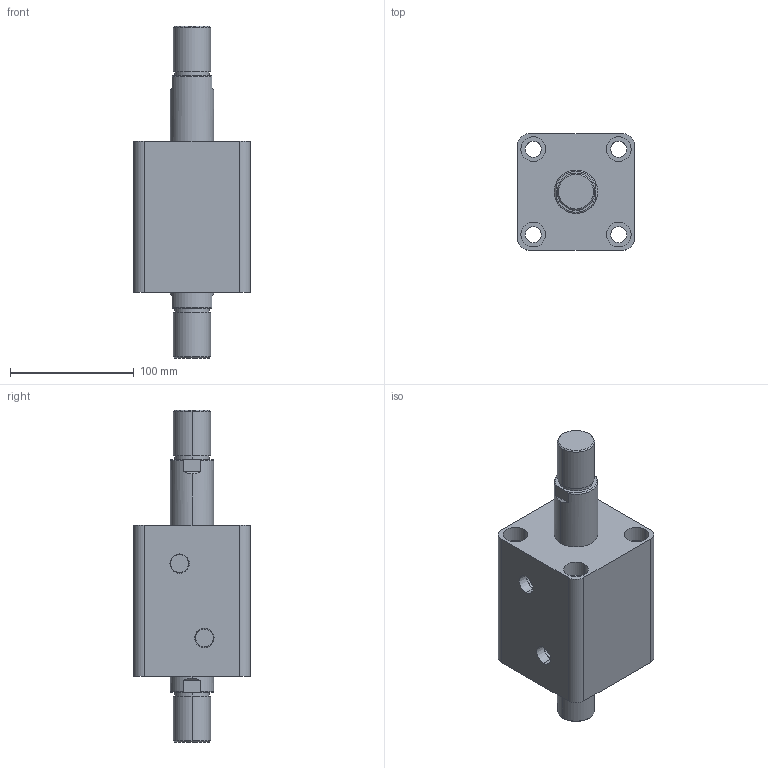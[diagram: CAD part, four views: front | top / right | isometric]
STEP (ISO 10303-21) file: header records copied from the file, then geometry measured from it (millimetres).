
FILE_DESCRIPTION (( 'STEP AP203' ), '1' );
FILE_NAME ('HTB-SW63-40W.STEP', '2019-10-07T10:04:47', ( '微软用户' ), ( '微软中国' ), 'SwSTEP 2.0', 'SolidWorks 2012', '' );
FILE_SCHEMA (( 'CONFIG_CONTROL_DESIGN' ));
Length unit declared in the file: millimetre
Products named in the file (3): HTB-SW63-40W; HTB-SW63-40W活塞杆; HTB-SW63-40掛极
Assembly tree (2 placements, depth 2):
  HTB-SW63-40W
    HTB-SW63-40掛极
    HTB-SW63-40W活塞杆
Bounding box: 94 x 94 x 268 mm (x, y, z)
Volume: 1014696.3 mm3; surface area: 140746.5 mm2
Topology: 2 solids, 2 shells, 108 faces, 240 edges, 156 vertices
Faces by surface type: cylinder 52, plane 36, torus 12, cone 8
Entity records: 3465 total; most frequent: CARTESIAN_POINT 645, DIRECTION 586, ORIENTED_EDGE 480, AXIS2_PLACEMENT_3D 249, EDGE_CURVE 240, VERTEX_POINT 156, EDGE_LOOP 138, CIRCLE 136
